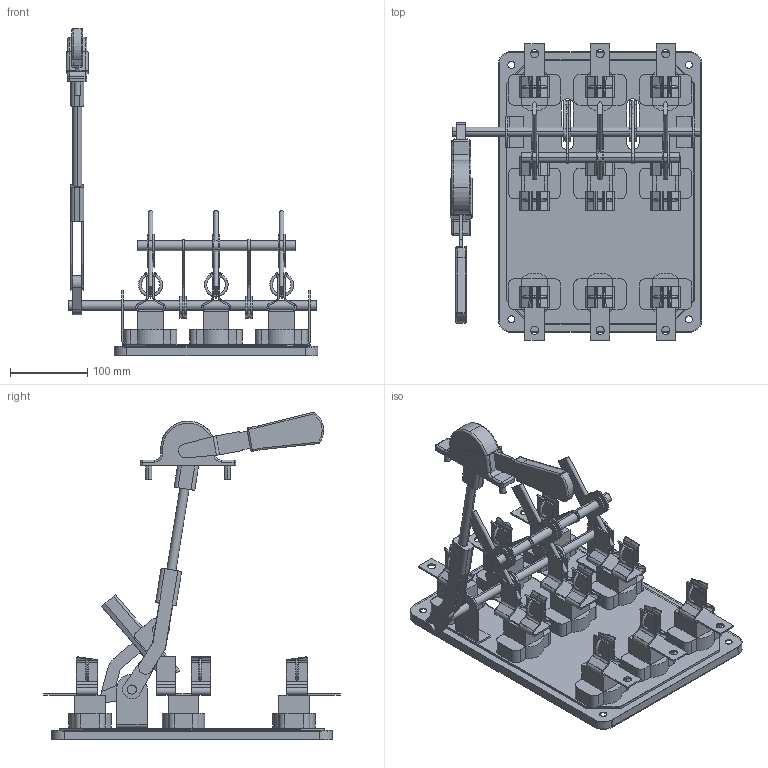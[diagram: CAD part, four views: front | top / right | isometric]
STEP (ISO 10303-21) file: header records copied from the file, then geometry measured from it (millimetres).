
FILE_DESCRIPTION (( 'STEP AP214' ), '1' );
FILE_NAME ('Ðàçúåäèíèòåëü ÐÏÑ-4Ë-400À-áåçÏÂ-Ó3-ÊÝÀÇ.STEP', '2023-05-01T20:21:26', ( '' ), ( '' ), 'SwSTEP 2.0', 'SolidWorks 2018', '' );
FILE_SCHEMA (( 'AUTOMOTIVE_DESIGN' ));
Length unit declared in the file: millimetre
Products named in the file (1): Ðàçúåäèíèòåëü ÐÏÑ-4Ë-400À-áåçÏÂ-Ó3-ÊÝÀÇ
Bounding box: 326.5 x 384 x 424.53 mm (x, y, z)
Volume: 1603664.2 mm3; surface area: 555063.2 mm2
Topology: 9 solids, 9 shells, 1124 faces, 3102 edges, 2003 vertices
Faces by surface type: plane 619, cylinder 407, torus 84, sphere 14
Entity records: 50421 total; most frequent: CARTESIAN_POINT 8594, ORIENTED_EDGE 6188, DIRECTION 6169, EDGE_CURVE 3094, AXIS2_PLACEMENT_3D 2106, VERTEX_POINT 2001, LINE 1957, VECTOR 1957
